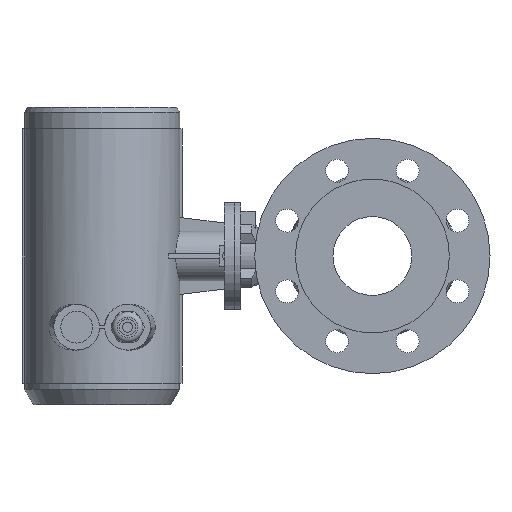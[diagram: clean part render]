
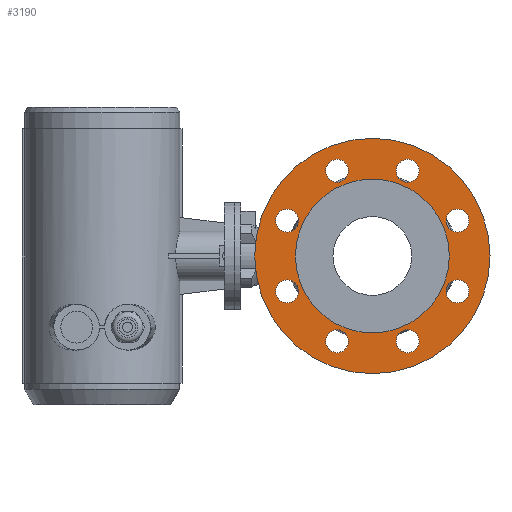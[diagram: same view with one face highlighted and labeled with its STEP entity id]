
A CAD part, left-side view. The second image highlights one B-rep face of the part: STEP entity #3190.
In plain terms, the highlighted planar face has unit normal (-1, 0, 0).
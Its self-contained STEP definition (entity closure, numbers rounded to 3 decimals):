
#988 = CARTESIAN_POINT ( 'NONE',  ( -89.805, -97.017, -10.543 ) ) ;
#990 = DIRECTION ( 'NONE',  ( 1., 0., 0. ) ) ;
#991 = DIRECTION ( 'NONE',  ( 0., 0., -1. ) ) ;
#2130 = VERTEX_POINT ( 'NONE', #2131 ) ;
#2131 = CARTESIAN_POINT ( 'NONE',  ( -89.805, -30.036, 26.202 ) ) ;
#2132 = VERTEX_POINT ( 'NONE', #2133 ) ;
#2133 = CARTESIAN_POINT ( 'NONE',  ( -89.805, -163.998, -29.287 ) ) ;
#2134 = VERTEX_POINT ( 'NONE', #2135 ) ;
#2135 = CARTESIAN_POINT ( 'NONE',  ( -89.805, -163.998, 26.202 ) ) ;
#2136 = VERTEX_POINT ( 'NONE', #2137 ) ;
#2137 = CARTESIAN_POINT ( 'NONE',  ( -89.805, -124.761, -68.524 ) ) ;
#2144 = VERTEX_POINT ( 'NONE', #2145 ) ;
#2145 = CARTESIAN_POINT ( 'NONE',  ( -89.805, -69.272, 65.438 ) ) ;
#2156 = VERTEX_POINT ( 'NONE', #2157 ) ;
#2157 = CARTESIAN_POINT ( 'NONE',  ( -89.805, -30.036, -29.287 ) ) ;
#2158 = VERTEX_POINT ( 'NONE', #2159 ) ;
#2159 = CARTESIAN_POINT ( 'NONE',  ( -89.805, -97.017, -103.043 ) ) ;
#2164 = VERTEX_POINT ( 'NONE', #2165 ) ;
#2165 = CARTESIAN_POINT ( 'NONE',  ( -89.805, -124.761, 65.438 ) ) ;
#2170 = VERTEX_POINT ( 'NONE', #2171 ) ;
#2171 = CARTESIAN_POINT ( 'NONE',  ( -89.805, -69.272, -68.524 ) ) ;
#2344 = VERTEX_POINT ( 'NONE', #2345 ) ;
#2345 = CARTESIAN_POINT ( 'NONE',  ( -89.805, -97.017, -71.043 ) ) ;
#2821 = EDGE_CURVE ( 'NONE', #2130, #2130, #9238, .T. ) ;
#2822 = EDGE_CURVE ( 'NONE', #2132, #2132, #9239, .T. ) ;
#2826 = EDGE_CURVE ( 'NONE', #2134, #2134, #9246, .T. ) ;
#2829 = EDGE_CURVE ( 'NONE', #2136, #2136, #9249, .T. ) ;
#2891 = EDGE_CURVE ( 'NONE', #2144, #2144, #9301, .T. ) ;
#3190 = ADVANCED_FACE ( 'NONE', ( #9581, #9590, #9592, #9594, #9588, #9583, #9591, #9593, #9595, #9589 ), #6469, .T. ) ;
#3450 = EDGE_CURVE ( 'NONE', #2156, #2156, #9969, .T. ) ;
#3468 = EDGE_CURVE ( 'NONE', #2158, #2158, #9997, .T. ) ;
#3502 = EDGE_CURVE ( 'NONE', #2164, #2164, #10042, .T. ) ;
#3603 = EDGE_CURVE ( 'NONE', #2170, #2170, #10205, .T. ) ;
#4198 = EDGE_CURVE ( 'NONE', #2344, #2344, #12527, .T. ) ;
#4915 = CARTESIAN_POINT ( 'NONE',  ( -89.805, -30.036, -38.287 ) ) ;
#4926 = DIRECTION ( 'NONE',  ( -1., 0., 0. ) ) ;
#4927 = DIRECTION ( 'NONE',  ( 0., 0., 1. ) ) ;
#4954 = CARTESIAN_POINT ( 'NONE',  ( -89.805, -97.017, -10.543 ) ) ;
#4958 = DIRECTION ( 'NONE',  ( 1., 0., 0. ) ) ;
#4959 = DIRECTION ( 'NONE',  ( 0., 0., -1. ) ) ;
#5083 = CARTESIAN_POINT ( 'NONE',  ( -89.805, -124.761, 56.438 ) ) ;
#5088 = DIRECTION ( 'NONE',  ( -1., 0., 0. ) ) ;
#5089 = DIRECTION ( 'NONE',  ( 0., 0., 1. ) ) ;
#5310 = CARTESIAN_POINT ( 'NONE',  ( -89.805, -69.272, -77.524 ) ) ;
#5333 = DIRECTION ( 'NONE',  ( -1., 0., 0. ) ) ;
#5334 = DIRECTION ( 'NONE',  ( 0., 0., 1. ) ) ;
#5599 = CARTESIAN_POINT ( 'NONE',  ( -89.805, -163.998, -38.287 ) ) ;
#5601 = CARTESIAN_POINT ( 'NONE',  ( -89.805, -30.036, 17.202 ) ) ;
#5604 = DIRECTION ( 'NONE',  ( -1., 0., 0. ) ) ;
#5605 = DIRECTION ( 'NONE',  ( 0., 0., 1. ) ) ;
#5606 = DIRECTION ( 'NONE',  ( -1., 0., 0. ) ) ;
#5607 = DIRECTION ( 'NONE',  ( 0., 0., 1. ) ) ;
#5612 = CARTESIAN_POINT ( 'NONE',  ( -89.805, -163.998, 17.202 ) ) ;
#5618 = DIRECTION ( 'NONE',  ( -1., 0., 0. ) ) ;
#5619 = DIRECTION ( 'NONE',  ( 0., 0., 1. ) ) ;
#5623 = CARTESIAN_POINT ( 'NONE',  ( -89.805, -124.761, -77.524 ) ) ;
#5639 = DIRECTION ( 'NONE',  ( -1., 0., 0. ) ) ;
#5640 = DIRECTION ( 'NONE',  ( 0., 0., 1. ) ) ;
#5820 = CARTESIAN_POINT ( 'NONE',  ( -89.805, -69.272, 56.438 ) ) ;
#5821 = DIRECTION ( 'NONE',  ( -1., 0., 0. ) ) ;
#5822 = DIRECTION ( 'NONE',  ( 0., 0., 1. ) ) ;
#6469 = PLANE ( 'NONE',  #7175 ) ;
#6470 = CARTESIAN_POINT ( 'NONE',  ( -89.805, -97.017, -10.543 ) ) ;
#6477 = DIRECTION ( 'NONE',  ( -1., 0., 0. ) ) ;
#6478 = DIRECTION ( 'NONE',  ( 0., 0., -1. ) ) ;
#7023 = AXIS2_PLACEMENT_3D ( 'NONE', #5601, #5604, #5605 ) ;
#7028 = AXIS2_PLACEMENT_3D ( 'NONE', #5599, #5606, #5607 ) ;
#7030 = AXIS2_PLACEMENT_3D ( 'NONE', #5612, #5618, #5619 ) ;
#7031 = AXIS2_PLACEMENT_3D ( 'NONE', #5623, #5639, #5640 ) ;
#7038 = AXIS2_PLACEMENT_3D ( 'NONE', #5820, #5821, #5822 ) ;
#7175 = AXIS2_PLACEMENT_3D ( 'NONE', #6470, #6477, #6478 ) ;
#7301 = AXIS2_PLACEMENT_3D ( 'NONE', #4915, #4926, #4927 ) ;
#7382 = AXIS2_PLACEMENT_3D ( 'NONE', #4954, #4958, #4959 ) ;
#7387 = AXIS2_PLACEMENT_3D ( 'NONE', #5083, #5088, #5089 ) ;
#7398 = AXIS2_PLACEMENT_3D ( 'NONE', #5310, #5333, #5334 ) ;
#7550 = AXIS2_PLACEMENT_3D ( 'NONE', #988, #990, #991 ) ;
#9238 = CIRCLE ( 'NONE', #7023, 9. ) ;
#9239 = CIRCLE ( 'NONE', #7028, 9. ) ;
#9246 = CIRCLE ( 'NONE', #7030, 9. ) ;
#9249 = CIRCLE ( 'NONE', #7031, 9. ) ;
#9301 = CIRCLE ( 'NONE', #7038, 9. ) ;
#9581 = FACE_BOUND ( 'NONE', #11256, .T. ) ;
#9583 = FACE_BOUND ( 'NONE', #11266, .T. ) ;
#9588 = FACE_BOUND ( 'NONE', #11268, .T. ) ;
#9589 = FACE_BOUND ( 'NONE', #11262, .T. ) ;
#9590 = FACE_BOUND ( 'NONE', #11269, .T. ) ;
#9591 = FACE_BOUND ( 'NONE', #11263, .T. ) ;
#9592 = FACE_BOUND ( 'NONE', #11270, .T. ) ;
#9593 = FACE_BOUND ( 'NONE', #11265, .T. ) ;
#9594 = FACE_BOUND ( 'NONE', #11267, .T. ) ;
#9595 = FACE_OUTER_BOUND ( 'NONE', #11264, .T. ) ;
#9969 = CIRCLE ( 'NONE', #7301, 9. ) ;
#9997 = CIRCLE ( 'NONE', #7382, 92.5 ) ;
#10042 = CIRCLE ( 'NONE', #7387, 9. ) ;
#10205 = CIRCLE ( 'NONE', #7398, 9. ) ;
#11127 = ORIENTED_EDGE ( 'NONE', *, *, #2821, .F. ) ;
#11129 = ORIENTED_EDGE ( 'NONE', *, *, #2891, .F. ) ;
#11130 = ORIENTED_EDGE ( 'NONE', *, *, #3502, .F. ) ;
#11131 = ORIENTED_EDGE ( 'NONE', *, *, #2826, .F. ) ;
#11132 = ORIENTED_EDGE ( 'NONE', *, *, #2822, .F. ) ;
#11133 = ORIENTED_EDGE ( 'NONE', *, *, #2829, .F. ) ;
#11135 = ORIENTED_EDGE ( 'NONE', *, *, #3603, .F. ) ;
#11136 = ORIENTED_EDGE ( 'NONE', *, *, #3450, .F. ) ;
#11137 = ORIENTED_EDGE ( 'NONE', *, *, #3468, .F. ) ;
#11139 = ORIENTED_EDGE ( 'NONE', *, *, #4198, .T. ) ;
#11256 = EDGE_LOOP ( 'NONE', ( #11127 ) ) ;
#11262 = EDGE_LOOP ( 'NONE', ( #11139 ) ) ;
#11263 = EDGE_LOOP ( 'NONE', ( #11135 ) ) ;
#11264 = EDGE_LOOP ( 'NONE', ( #11137 ) ) ;
#11265 = EDGE_LOOP ( 'NONE', ( #11136 ) ) ;
#11266 = EDGE_LOOP ( 'NONE', ( #11133 ) ) ;
#11267 = EDGE_LOOP ( 'NONE', ( #11131 ) ) ;
#11268 = EDGE_LOOP ( 'NONE', ( #11132 ) ) ;
#11269 = EDGE_LOOP ( 'NONE', ( #11129 ) ) ;
#11270 = EDGE_LOOP ( 'NONE', ( #11130 ) ) ;
#12527 = CIRCLE ( 'NONE', #7550, 60.5 ) ;
